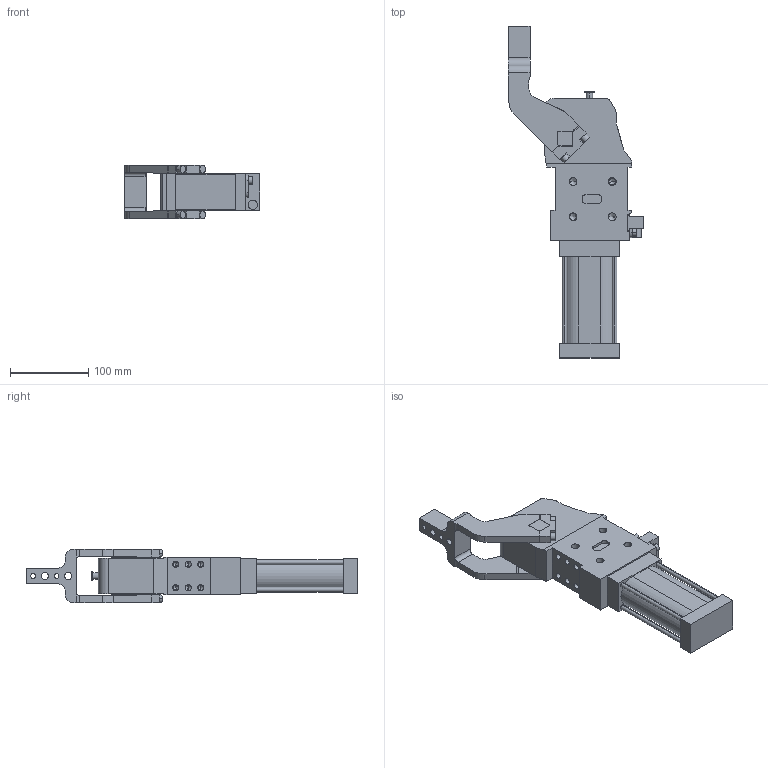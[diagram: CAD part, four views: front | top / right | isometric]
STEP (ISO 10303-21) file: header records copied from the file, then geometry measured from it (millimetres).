
FILE_DESCRIPTION (( 'STEP AP214' ), '1' );
FILE_NAME ('cpl50h3ci1g_107.STEP', '2023-01-26T09:54:13', ( '' ), ( '' ), 'SwSTEP 2.0', 'SolidWorks 2022', '' );
FILE_SCHEMA (( 'AUTOMOTIVE_DESIGN' ));
Length unit declared in the file: millimetre
Products named in the file (4): meccanica_cpl_50; blocchetto_VEP_0; cpl50h3ci1g_107; leva_cx_offset_45_cpl50
Assembly tree (3 placements, depth 2):
  cpl50h3ci1g_107
    meccanica_cpl_50
    blocchetto_VEP_0
    leva_cx_offset_45_cpl50
Bounding box: 173.5 x 424.5 x 69 mm (x, y, z)
Volume: 1390552.4 mm3; surface area: 165759.9 mm2
Topology: 3 solids, 3 shells, 401 faces, 1035 edges, 643 vertices
Faces by surface type: plane 195, cylinder 156, cone 50
Entity records: 13479 total; most frequent: DIRECTION 2125, CARTESIAN_POINT 2115, ORIENTED_EDGE 1978, EDGE_CURVE 989, AXIS2_PLACEMENT_3D 735, LINE 655, VECTOR 655, VERTEX_POINT 643
